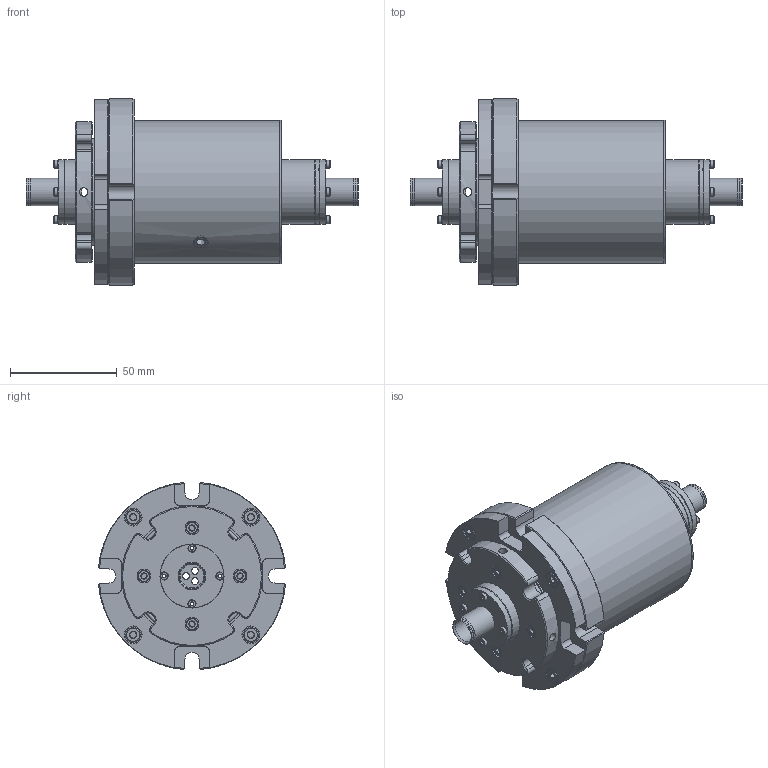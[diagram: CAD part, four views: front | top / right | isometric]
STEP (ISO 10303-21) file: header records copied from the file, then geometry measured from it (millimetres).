
FILE_DESCRIPTION (( 'STEP AP203' ), '1' );
FILE_NAME ('JXn.STEP', '2026-07-01T12:48:34', ( '' ), ( '' ), 'SwSTEP 2.0', 'SolidWorks 2025', '' );
FILE_SCHEMA (( 'CONFIG_CONTROL_DESIGN' ));
Length unit declared in the file: millimetre
Products named in the file (1): JXn
Bounding box: 155.5 x 87.68 x 87.68 mm (x, y, z)
Surface area: 50033.3 mm2 (no closed solid volume)
Topology: 0 solids, 42 shells, 528 faces, 1327 edges, 790 vertices
Faces by surface type: plane 235, cone 198, cylinder 92, torus 3
Full cylindrical faces by diameter (mm): 3.3 x4, 3.8 x8, 4 x4, 5.5 x6, 6.5 x8, 6.8 x1, 7 x4, 8 x4, 11 x2, 12.8 x4, 13.1 x2, 30 x5, 50 x1, 52.2 x1, 67 x2
Entity records: 16014 total; most frequent: CARTESIAN_POINT 4199, DIRECTION 2540, ORIENTED_EDGE 1958, EDGE_CURVE 1193, AXIS2_PLACEMENT_3D 1022, VERTEX_POINT 769, EDGE_LOOP 733, FACE_OUTER_BOUND 587
